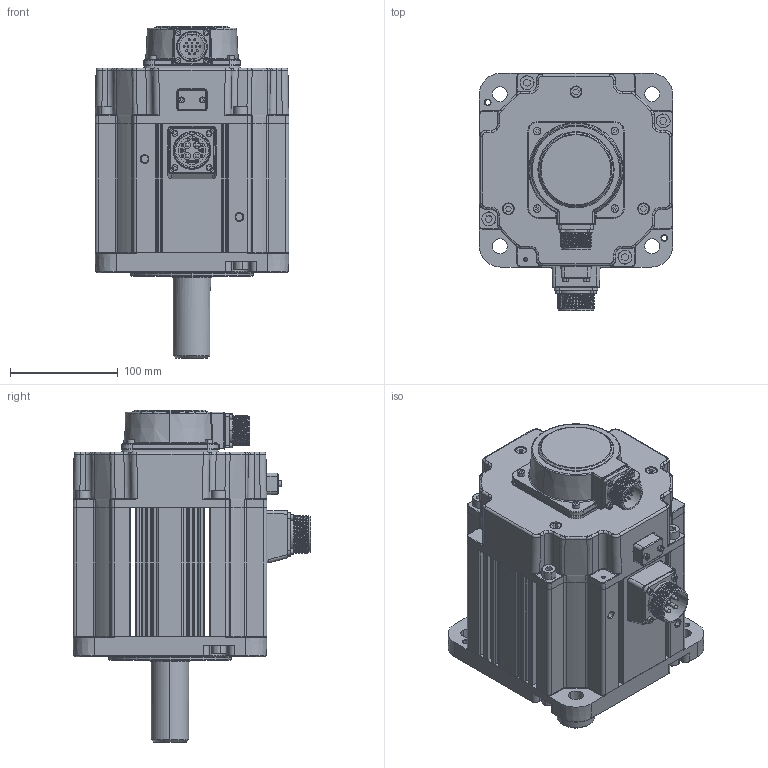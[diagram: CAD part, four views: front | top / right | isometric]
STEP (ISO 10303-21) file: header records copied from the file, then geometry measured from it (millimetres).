
FILE_DESCRIPTION (( 'STEP AP203' ), '1' );
FILE_NAME ('MS6G-180CN15BZ2-44P4.STEP', '2023-12-30T03:47:29', ( '' ), ( '' ), 'SwSTEP 2.0', 'SolidWorks 2022', '' );
FILE_SCHEMA (( 'CONFIG_CONTROL_DESIGN' ));
Products named in the file (1): MS6G-180CN15BZ2-44P4
Bounding box: 180 x 220.9 x 308.5 mm (x, y, z)
Surface area: 274458.8 mm2 (no closed solid volume)
Topology: 0 solids, 84 shells, 1567 faces, 4955 edges, 3426 vertices
Faces by surface type: plane 527, cylinder 474, bspline 271, torus 143, cone 110, sphere 42
Entity records: 75817 total; most frequent: CARTESIAN_POINT 34782, DIRECTION 8137, ORIENTED_EDGE 8046, EDGE_CURVE 4907, VERTEX_POINT 3426, AXIS2_PLACEMENT_3D 2887, VECTOR 2363, LINE 2363
